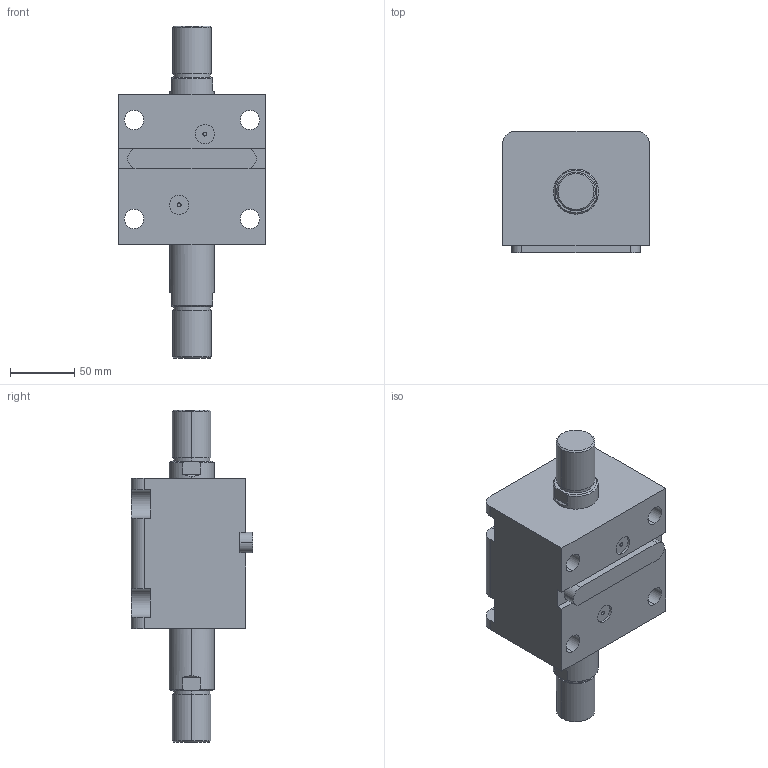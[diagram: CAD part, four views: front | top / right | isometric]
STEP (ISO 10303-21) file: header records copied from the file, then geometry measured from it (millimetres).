
FILE_DESCRIPTION (( 'STEP AP203' ), '1' );
FILE_NAME ('HTB-LWM63-35W.STEP', '2020-12-25T03:43:00', ( '微软用户' ), ( '微软中国' ), 'SwSTEP 2.0', 'SolidWorks 2012', '' );
FILE_SCHEMA (( 'CONFIG_CONTROL_DESIGN' ));
Length unit declared in the file: millimetre
Products named in the file (4): HTB-LWM63-35掛极; HTB-LWM63-35W活塞杆; HTB-LWM63-瑩; HTB-LWM63-35W
Assembly tree (3 placements, depth 2):
  HTB-LWM63-35W
    HTB-LWM63-35掛极
    HTB-LWM63-35W活塞杆
    HTB-LWM63-瑩
Bounding box: 114 x 94.5 x 258 mm (x, y, z)
Volume: 1149235.7 mm3; surface area: 143141.7 mm2
Topology: 3 solids, 3 shells, 113 faces, 273 edges, 178 vertices
Faces by surface type: cylinder 49, plane 48, torus 8, cone 8
Entity records: 3783 total; most frequent: CARTESIAN_POINT 626, DIRECTION 617, ORIENTED_EDGE 546, EDGE_CURVE 273, AXIS2_PLACEMENT_3D 241, VERTEX_POINT 178, EDGE_LOOP 135, LINE 135
